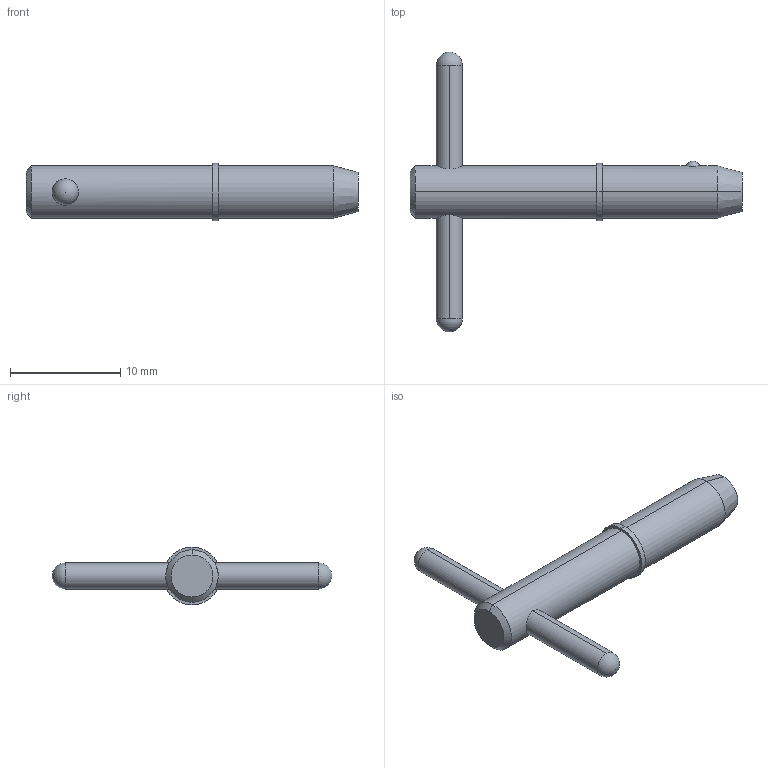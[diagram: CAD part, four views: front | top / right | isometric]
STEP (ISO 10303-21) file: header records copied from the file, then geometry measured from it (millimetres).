
FILE_DESCRIPTION (( 'STEP AP203' ), '1' );
FILE_NAME ('33018.W1803.step', '2024-11-19T17:06:29', ( '' ), ( '' ), 'SwSTEP 2.0', 'SolidWorks 2019', '' );
FILE_SCHEMA (( 'CONFIG_CONTROL_DESIGN' ));
Length unit declared in the file: millimetre
Products named in the file (3): Part2_33018.W1803; Part1_33018.W1803; 33018.W1803
Assembly tree (2 placements, depth 2):
  33018.W1803
    Part1_33018.W1803
    Part2_33018.W1803
Bounding box: 30.15 x 25.4 x 5.24 mm (x, y, z)
Volume: 617 mm3; surface area: 693.9 mm2
Topology: 2 solids, 2 shells, 22 faces, 47 edges, 30 vertices
Faces by surface type: cylinder 10, sphere 4, cone 4, plane 4
Entity records: 961 total; most frequent: CARTESIAN_POINT 204, DIRECTION 110, ORIENTED_EDGE 82, AXIS2_PLACEMENT_3D 48, EDGE_CURVE 41, EDGE_LOOP 27, VERTEX_POINT 26, PERSON_AND_ORGANIZATION 26
